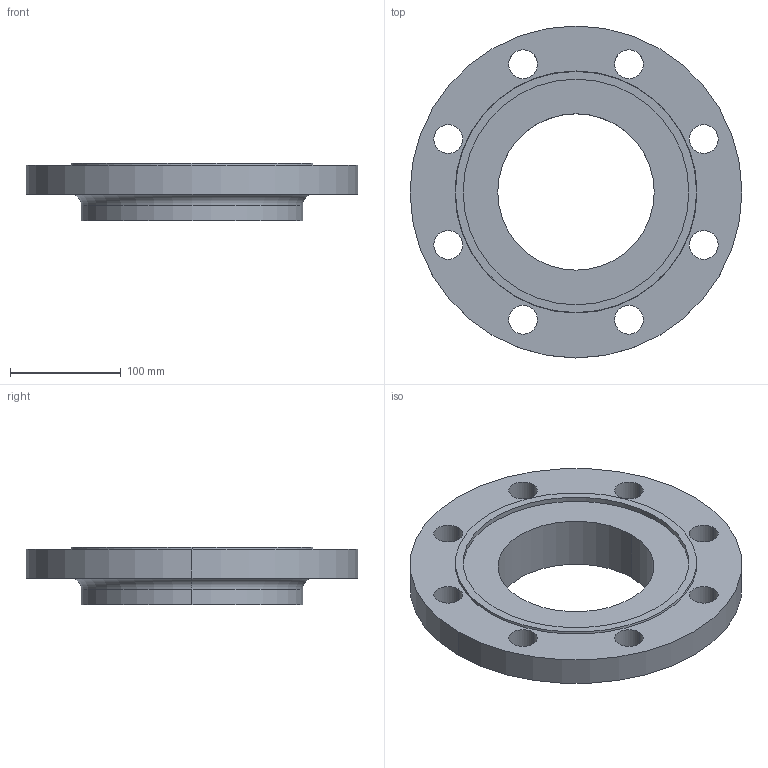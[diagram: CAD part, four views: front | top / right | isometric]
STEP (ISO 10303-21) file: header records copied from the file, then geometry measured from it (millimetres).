
FILE_DESCRIPTION (( 'STEP AP214' ), '1' );
FILE_NAME ('PN40 DN150 Type 13 - Type F Face.STEP', '2019-01-04T21:56:50', ( '' ), ( '' ), 'SwSTEP 2.0', 'SolidWorks 2019', '' );
FILE_SCHEMA (( 'AUTOMOTIVE_DESIGN' ));
Length unit declared in the file: millimetre
Products named in the file (1): PN40 DN150 Type 13 - Type F Face
Bounding box: 300 x 300 x 52 mm (x, y, z)
Volume: 1677704.9 mm3; surface area: 180545.3 mm2
Topology: 1 solids, 1 shells, 33 faces, 82 edges, 54 vertices
Faces by surface type: cylinder 24, plane 5, torus 2, cone 2
Entity records: 1086 total; most frequent: DIRECTION 206, CARTESIAN_POINT 170, ORIENTED_EDGE 164, AXIS2_PLACEMENT_3D 90, EDGE_CURVE 82, CIRCLE 56, VERTEX_POINT 54, EDGE_LOOP 54
